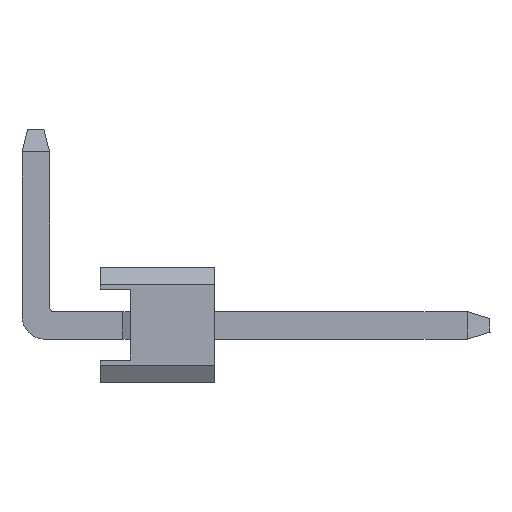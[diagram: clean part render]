
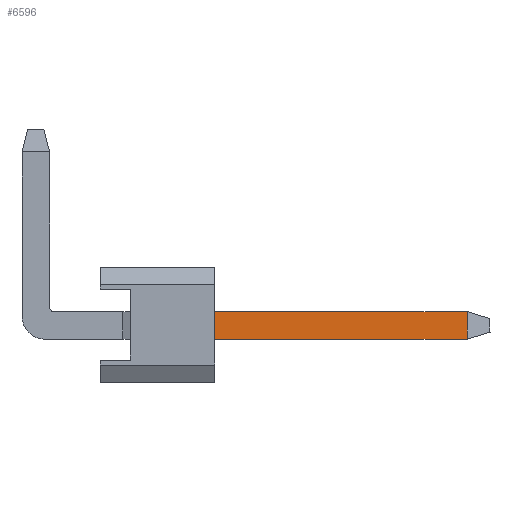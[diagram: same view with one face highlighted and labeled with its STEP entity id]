
A CAD part, left-side view. The second image highlights one B-rep face of the part: STEP entity #6596.
In plain terms, the highlighted planar face has unit normal (-1, 0, 0).
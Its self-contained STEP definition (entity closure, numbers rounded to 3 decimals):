
#14 = EDGE_CURVE ( 'NONE', #3263, #5231, #735, .T. ) ;
#235 = CARTESIAN_POINT ( 'NONE',  ( -13.078, -1.159, -9.172 ) ) ;
#340 = ORIENTED_EDGE ( 'NONE', *, *, #674, .T. ) ;
#382 = CARTESIAN_POINT ( 'NONE',  ( -13.078, -6.659, -9.772 ) ) ;
#674 = EDGE_CURVE ( 'NONE', #5908, #835, #781, .T. ) ;
#735 = LINE ( 'NONE', #3431, #3380 ) ;
#781 = LINE ( 'NONE', #4152, #5742 ) ;
#812 = DIRECTION ( 'NONE',  ( 0., 1., 0. ) ) ;
#835 = VERTEX_POINT ( 'NONE', #382 ) ;
#1134 = EDGE_CURVE ( 'NONE', #5908, #3263, #4234, .T. ) ;
#1532 = CARTESIAN_POINT ( 'NONE',  ( -13.078, -6.659, -9.172 ) ) ;
#1651 = AXIS2_PLACEMENT_3D ( 'NONE', #1741, #5108, #812 ) ;
#1741 = CARTESIAN_POINT ( 'NONE',  ( -13.078, -6.659, -9.172 ) ) ;
#2703 = ORIENTED_EDGE ( 'NONE', *, *, #6018, .F. ) ;
#2723 = DIRECTION ( 'NONE',  ( 0., 0., -1. ) ) ;
#3263 = VERTEX_POINT ( 'NONE', #235 ) ;
#3380 = VECTOR ( 'NONE', #4495, 1000. ) ;
#3431 = CARTESIAN_POINT ( 'NONE',  ( -13.078, -6.659, -9.172 ) ) ;
#3450 = VECTOR ( 'NONE', #3705, 1000. ) ;
#3705 = DIRECTION ( 'NONE',  ( 0., 0., 1. ) ) ;
#3777 = EDGE_LOOP ( 'NONE', ( #4080, #340, #2703, #6929 ) ) ;
#3967 = FACE_OUTER_BOUND ( 'NONE', #3777, .T. ) ;
#4080 = ORIENTED_EDGE ( 'NONE', *, *, #1134, .F. ) ;
#4152 = CARTESIAN_POINT ( 'NONE',  ( -13.078, -6.659, -9.772 ) ) ;
#4234 = LINE ( 'NONE', #6417, #3450 ) ;
#4495 = DIRECTION ( 'NONE',  ( 0., -1., 0. ) ) ;
#4613 = DIRECTION ( 'NONE',  ( 0., -1., 0. ) ) ;
#5108 = DIRECTION ( 'NONE',  ( 1., 0., 0. ) ) ;
#5231 = VERTEX_POINT ( 'NONE', #6489 ) ;
#5586 = VECTOR ( 'NONE', #2723, 1000. ) ;
#5742 = VECTOR ( 'NONE', #4613, 1000. ) ;
#5908 = VERTEX_POINT ( 'NONE', #6366 ) ;
#6018 = EDGE_CURVE ( 'NONE', #5231, #835, #6438, .T. ) ;
#6246 = PLANE ( 'NONE',  #1651 ) ;
#6366 = CARTESIAN_POINT ( 'NONE',  ( -13.078, -1.159, -9.772 ) ) ;
#6417 = CARTESIAN_POINT ( 'NONE',  ( -13.078, -1.159, -9.172 ) ) ;
#6438 = LINE ( 'NONE', #1532, #5586 ) ;
#6489 = CARTESIAN_POINT ( 'NONE',  ( -13.078, -6.659, -9.172 ) ) ;
#6596 = ADVANCED_FACE ( 'NONE', ( #3967 ), #6246, .F. ) ;
#6929 = ORIENTED_EDGE ( 'NONE', *, *, #14, .F. ) ;
